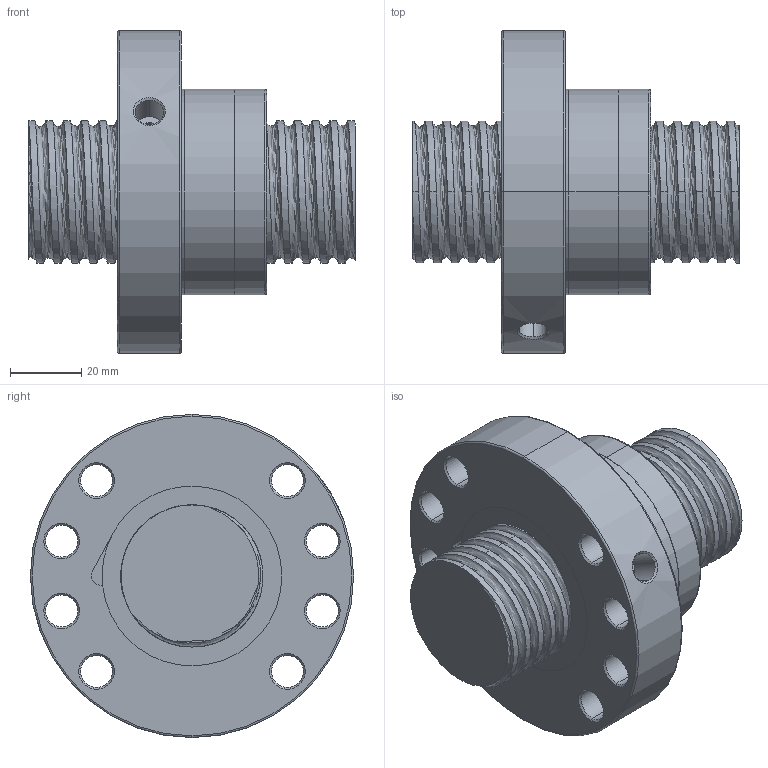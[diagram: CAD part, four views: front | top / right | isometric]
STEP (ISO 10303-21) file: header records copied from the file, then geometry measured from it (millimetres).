
FILE_DESCRIPTION (( 'STEP AP214' ), '1' );
FILE_NAME ('FSDC04005T4-B-A.STEP', '2010-06-25T11:56:52', ( 'XPAUTO' ), ( 'XPAUTO' ), 'SwSTEP 2.0', 'SolidWorks 2007', '' );
FILE_SCHEMA (( 'AUTOMOTIVE_DESIGN' ));
Length unit declared in the file: millimetre
Products named in the file (3): FSDC04005T4-B-A; FSDC04005T4-B-A.sldasm-Part-2_預設; FSDC04005T4-B-A.sldasm-Part-1_預設
Assembly tree (2 placements, depth 2):
  FSDC04005T4-B-A
    FSDC04005T4-B-A.sldasm-Part-2_預設
    FSDC04005T4-B-A.sldasm-Part-1_預設
Bounding box: 92 x 91 x 91 mm (x, y, z)
Volume: 225815 mm3; surface area: 45793.9 mm2
Topology: 2 solids, 2 shells, 139 faces, 347 edges, 217 vertices
Faces by surface type: cylinder 80, cone 32, plane 16, torus 6, bspline 5
Entity records: 26972 total; most frequent: CARTESIAN_POINT 23645, ORIENTED_EDGE 694, DIRECTION 653, EDGE_CURVE 347, AXIS2_PLACEMENT_3D 267, VERTEX_POINT 217, EDGE_LOOP 164, ADVANCED_FACE 139
